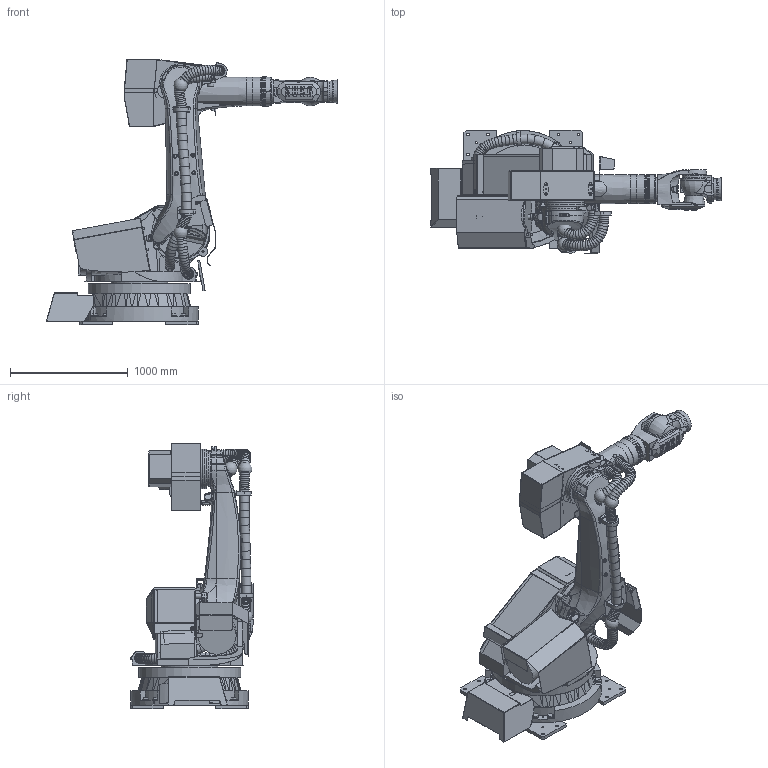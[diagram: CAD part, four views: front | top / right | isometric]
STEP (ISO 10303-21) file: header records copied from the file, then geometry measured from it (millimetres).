
FILE_DESCRIPTION(/* description */ (''),/* implementation_level */ '2;1');
FILE_NAME(/* name */ 'KR210-2_Foundry-Exclusive.stp',/* time_stamp */ '2014-05-13T13:29:27+02:00',/* author */ (''),/* organization */ (''),/* preprocessor_version */ 'ST-DEVELOPER v11',/* originating_system */ 'SIEMENS PLM Software NX 7.5',/* authorisation */ '');
FILE_SCHEMA (('AUTOMOTIVE_DESIGN { 1 0 10303 214 1 1 1 1 }'));
Products named in the file (1): KR210-2_Foundry-Exclusive
Bounding box: 2464.81 x 1047.77 x 2247.5 mm (x, y, z)
Volume: 654019657.5 mm3; surface area: 23819107.2 mm2
Topology: 79 solids, 83 shells, 3627 faces, 8977 edges, 5549 vertices
Faces by surface type: plane 1884, cylinder 915, bspline 422, torus 267, cone 100, extrusion 26, sphere 8, revolution 5
Full cylindrical faces by diameter (mm): 4 x1, 6 x2, 6.8 x2, 6.985 x4, 8 x3, 8.4 x4, 8.5 x4, 8.782 x6, 9 x14, 10 x3, 11 x18, 12.5 x4, 13 x3, 16 x6, 17 x18, 17.97 x4, 18 x3, 20 x6, 20.5 x1, 21 x12, 22.376 x8, 22.5 x2, 24 x8, 25 x8, 27.5 x1, 28 x11, 30 x2, 36 x1, 40 x1, 41 x2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
Entity records: 158215 total; most frequent: CARTESIAN_POINT 53917, ORIENTED_EDGE 16528, DIRECTION 15647, EDGE_CURVE 8264, AXIS2_PLACEMENT_3D 5592, VERTEX_POINT 5415, VECTOR 4459, EDGE_LOOP 4437
